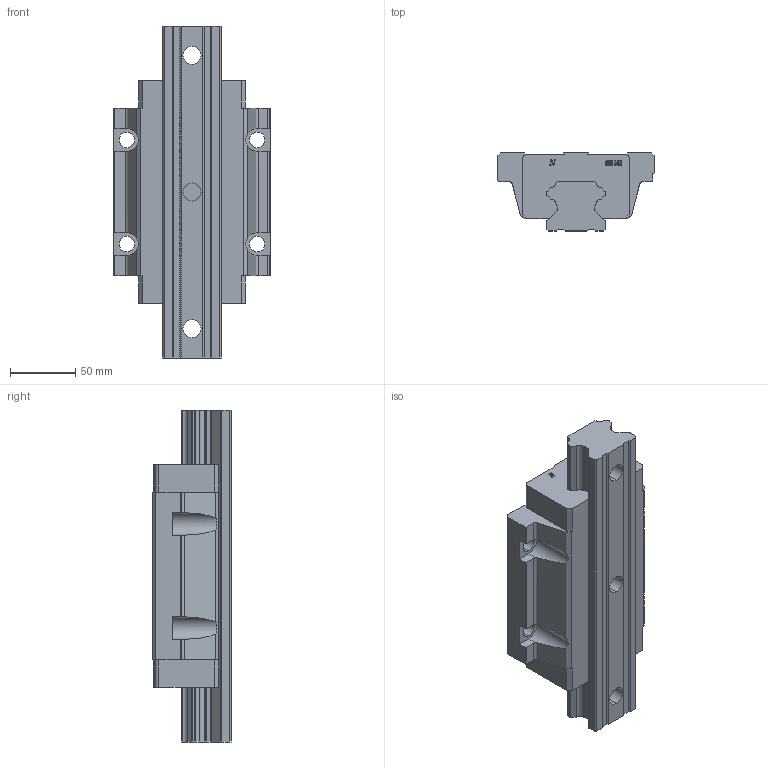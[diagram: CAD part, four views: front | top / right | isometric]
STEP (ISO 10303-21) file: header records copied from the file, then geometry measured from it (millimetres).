
FILE_DESCRIPTION (( 'STEP AP203' ), '1' );
FILE_NAME ('SMH45AL.stp', '2019-09-23T06:29:59', ( 'pgos' ), ( '' ), 'SwSTEP 2.0', 'SolidWorks 2014', '' );
FILE_SCHEMA (( 'CONFIG_CONTROL_DESIGN' ));
Length unit declared in the file: millimetre
Products named in the file (3): SMH45A; SMH45; SMH45AL
Assembly tree (2 placements, depth 2):
  SMH45AL
    SMH45A
    SMH45
Bounding box: 120 x 60 x 255 mm (x, y, z)
Volume: 979797.2 mm3; surface area: 126714.4 mm2
Topology: 2 solids, 2 shells, 286 faces, 817 edges, 545 vertices
Faces by surface type: plane 193, cylinder 67, bspline 26
Entity records: 10968 total; most frequent: CARTESIAN_POINT 3263, ORIENTED_EDGE 1634, DIRECTION 1405, EDGE_CURVE 817, VECTOR 615, LINE 615, VERTEX_POINT 545, AXIS2_PLACEMENT_3D 395
